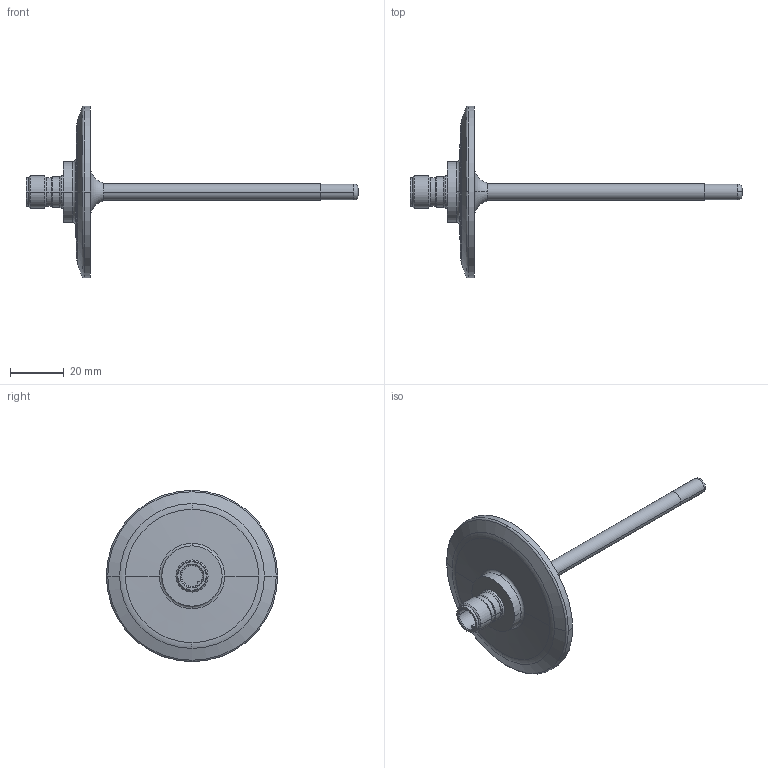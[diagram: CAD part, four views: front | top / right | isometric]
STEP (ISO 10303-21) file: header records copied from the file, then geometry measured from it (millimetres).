
FILE_DESCRIPTION( ( '' ), '1' );
FILE_NAME( '//expscmdclustefs.cadenas.external/client_exchange/iodir/jobs/output/wkb51980195_no0/STEP/TM4831_2_03.stp', '2012-12-05T07:21:54', ( '' ), ( '' ), ' ', ' ', ' ' );
FILE_SCHEMA( ( 'CONFIG_CONTROL_DESIGN' ) );
Length unit declared in the file: millimetre
Products named in the file (1): 1
Bounding box: 124 x 64 x 64 mm (x, y, z)
Volume: 20752.9 mm3; surface area: 10194.1 mm2
Topology: 1 solids, 1 shells, 76 faces, 196 edges, 129 vertices
Faces by surface type: torus 25, cylinder 21, cone 18, plane 12
Entity records: 2466 total; most frequent: DIRECTION 496, CARTESIAN_POINT 420, ORIENTED_EDGE 392, AXIS2_PLACEMENT_3D 225, EDGE_CURVE 196, CIRCLE 148, VERTEX_POINT 129, EDGE_LOOP 83
